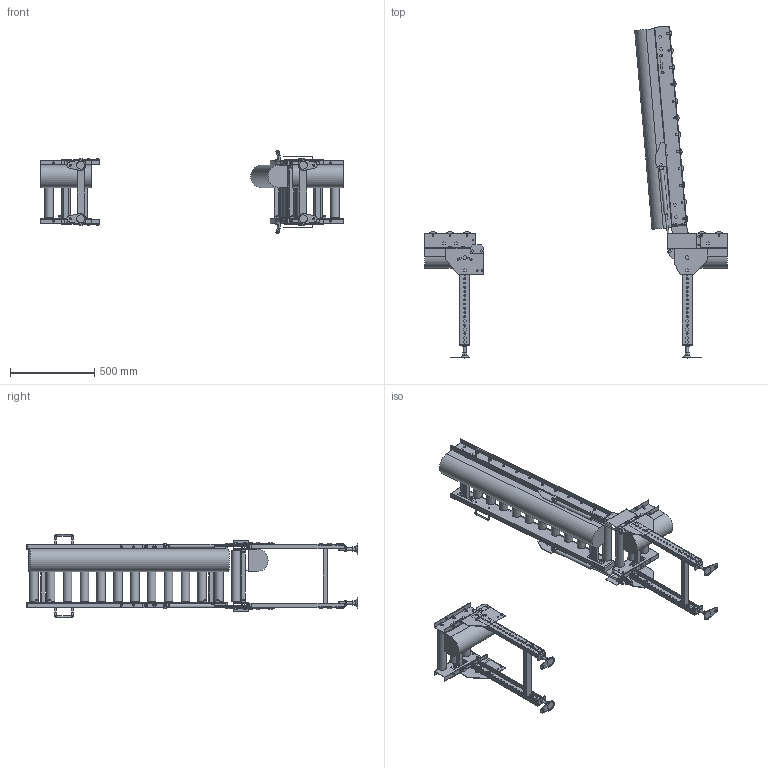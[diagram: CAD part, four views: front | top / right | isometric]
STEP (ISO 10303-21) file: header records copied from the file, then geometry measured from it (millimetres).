
FILE_DESCRIPTION (( 'STEP AP214' ), '1' );
FILE_NAME ('MCD50HU-L-315-100-1200.STEP', '2022-11-17T05:16:32', ( '' ), ( '' ), 'SwSTEP 2.0', 'SolidWorks 2017', '' );
FILE_SCHEMA (( 'AUTOMOTIVE_DESIGN' ));
Length unit declared in the file: millimetre
Products named in the file (1): MCD50HU-L-315-100-1200
Bounding box: 1791.65 x 1964.71 x 491.4 mm (x, y, z)
Volume: 41284687.7 mm3; surface area: 4248258.8 mm2
Topology: 5 solids, 31 shells, 2589 faces, 6418 edges, 4083 vertices
Faces by surface type: plane 2128, cylinder 443, cone 10, torus 8
Full cylindrical faces by diameter (mm): 8 x8, 8.5 x8, 9 x20, 10 x58, 10.5 x96, 11 x8, 12 x38, 13 x12, 14 x4, 15 x6, 15.4 x2, 15.7 x2, 16 x10, 17 x4, 18 x6, 18.4 x28, 18.5 x8, 21 x12, 22 x2, 50.8 x18
Entity records: 74604 total; most frequent: CARTESIAN_POINT 12747, DIRECTION 12472, ORIENTED_EDGE 11740, EDGE_CURVE 5870, VECTOR 4440, LINE 4440, AXIS2_PLACEMENT_3D 4016, VERTEX_POINT 3903
